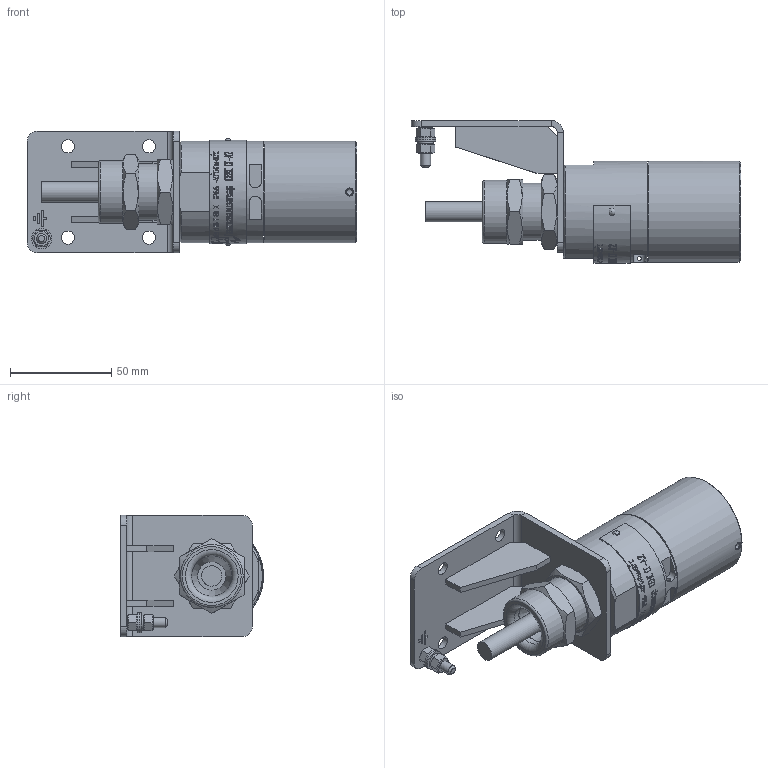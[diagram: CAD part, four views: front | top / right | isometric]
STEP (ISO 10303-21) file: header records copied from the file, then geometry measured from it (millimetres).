
FILE_DESCRIPTION(('STEP AP203'), '1');
FILE_NAME('捇迕.413347.021-03捘.stp', '2022-01-14T12:39:05', ('romanovaiv'), ('Sensor'), 'ASCON STEP Converter 1.3', 'Kompas 3D', '');
FILE_SCHEMA(('CONFIG_CONTROL_DESIGN','SUPPORT_RESOURCE_SCHEMA'));
Length unit declared in the file: millimetre
Products named in the file (32): 243; 244; 245; 246; 247; 248; 249; 250; 251; 252; 253; 254; 255; 256; 257; 258; 259; 260; 261; 262; 263; 264; 265; 266; 267; 268; 269; 270; 271; 272; 273; 274
Assembly tree (42 placements, depth 6):
  243
    244
      245
      246
      247
        248
        249
      250
      251
      252
        253
          254
            255
            256  x5
            257  x4
          258
        259
        260
        261
        262
        263
    264  x2
    265
      266
      267  x2
      268
    269
    270  x2
    271  x2
    272
    273
    274
Bounding box: 162.5 x 70.5 x 60 mm (x, y, z)
Volume: 186585.2 mm3; surface area: 100341.1 mm2
Topology: 58 solids, 58 shells, 2746 faces, 7660 edges, 5075 vertices
Faces by surface type: plane 1362, cylinder 1271, cone 57, torus 35, extrusion 14, bspline 4, sphere 2, revolution 1
Full cylindrical faces by diameter (mm): 1 x2, 1.02 x4, 1.5 x5, 1.85 x4, 2 x7, 2.29 x8, 2.49 x5, 3 x2, 3.05 x10, 4.134 x2, 4.5 x2, 5 x1, 5.5 x2, 6 x1, 6.5 x4, 10 x4, 13 x1, 17 x1, 18 x2, 20 x3, 21 x1, 22.5 x1, 22.6 x1, 23.5 x1, 24 x2, 25 x3, 26 x2, 26.376 x2, 26.5 x1, 28 x1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
Entity records: 126635 total; most frequent: CARTESIAN_POINT 43605, ORIENTED_EDGE 14940, DIRECTION 9759, EDGE_CURVE 7470, VERTEX_POINT 4960, AXIS2_PLACEMENT_3D 3400, VECTOR 2958, LINE 2944
